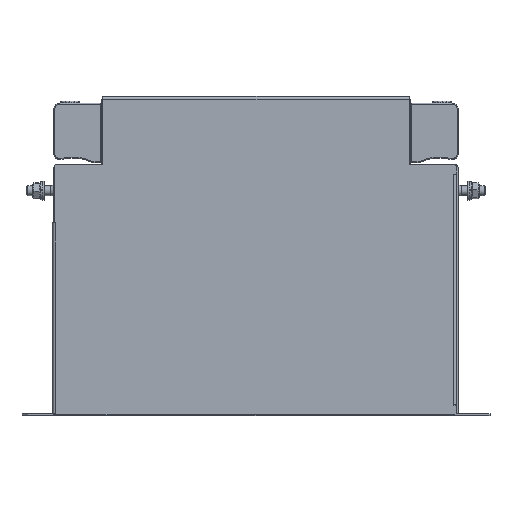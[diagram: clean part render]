
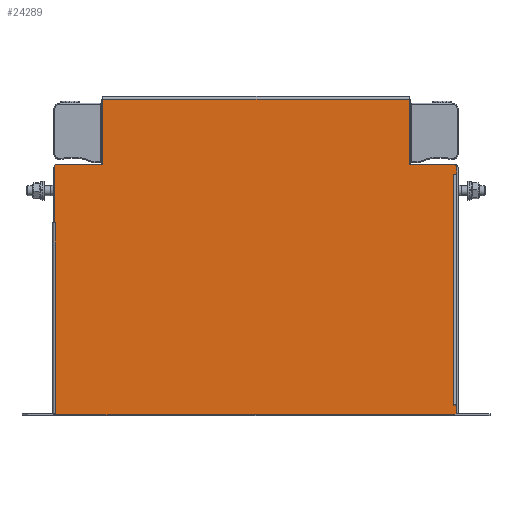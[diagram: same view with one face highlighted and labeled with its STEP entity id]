
A CAD part, top view. The second image highlights one B-rep face of the part: STEP entity #24289.
In plain terms, the highlighted planar face has unit normal (0, 0, 1).
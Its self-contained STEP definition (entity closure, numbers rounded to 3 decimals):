
#2786=FACE_OUTER_BOUND('',#4310,.T.);
#4310=EDGE_LOOP('',(#20236,#20237,#20238,#20239,#20240,#20241,#20242,#20243,
#20244,#20245,#20246,#20247,#20248,#20249,#20250,#20251,#20252,#20253,#20254,
#20255,#20256,#20257,#20258,#20259,#20260,#20261,#20262));
#6638=LINE('',#40257,#8964);
#6639=LINE('',#40259,#8965);
#6640=LINE('',#40261,#8966);
#6641=LINE('',#40263,#8967);
#6642=LINE('',#40265,#8968);
#6643=LINE('',#40267,#8969);
#6644=LINE('',#40269,#8970);
#6645=LINE('',#40271,#8971);
#6646=LINE('',#40273,#8972);
#6647=LINE('',#40275,#8973);
#6648=LINE('',#40277,#8974);
#6649=LINE('',#40279,#8975);
#6650=LINE('',#40281,#8976);
#6651=LINE('',#40283,#8977);
#6652=LINE('',#40285,#8978);
#6653=LINE('',#40287,#8979);
#6654=LINE('',#40289,#8980);
#6655=LINE('',#40291,#8981);
#6656=LINE('',#40293,#8982);
#6657=LINE('',#40295,#8983);
#6658=LINE('',#40297,#8984);
#6659=LINE('',#40299,#8985);
#6660=LINE('',#40301,#8986);
#6661=LINE('',#40303,#8987);
#6662=LINE('',#40305,#8988);
#6663=LINE('',#40307,#8989);
#6664=LINE('',#40308,#8990);
#8964=VECTOR('',#32757,10.);
#8965=VECTOR('',#32758,10.);
#8966=VECTOR('',#32759,10.);
#8967=VECTOR('',#32760,10.);
#8968=VECTOR('',#32761,10.);
#8969=VECTOR('',#32762,10.);
#8970=VECTOR('',#32763,10.);
#8971=VECTOR('',#32764,10.);
#8972=VECTOR('',#32765,10.);
#8973=VECTOR('',#32766,10.);
#8974=VECTOR('',#32767,10.);
#8975=VECTOR('',#32768,10.);
#8976=VECTOR('',#32769,10.);
#8977=VECTOR('',#32770,10.);
#8978=VECTOR('',#32771,10.);
#8979=VECTOR('',#32772,10.);
#8980=VECTOR('',#32773,10.);
#8981=VECTOR('',#32774,10.);
#8982=VECTOR('',#32775,10.);
#8983=VECTOR('',#32776,10.);
#8984=VECTOR('',#32777,10.);
#8985=VECTOR('',#32778,10.);
#8986=VECTOR('',#32779,10.);
#8987=VECTOR('',#32780,10.);
#8988=VECTOR('',#32781,10.);
#8989=VECTOR('',#32782,10.);
#8990=VECTOR('',#32783,10.);
#11003=VERTEX_POINT('',#40255);
#11004=VERTEX_POINT('',#40256);
#11005=VERTEX_POINT('',#40258);
#11006=VERTEX_POINT('',#40260);
#11007=VERTEX_POINT('',#40262);
#11008=VERTEX_POINT('',#40264);
#11009=VERTEX_POINT('',#40266);
#11010=VERTEX_POINT('',#40268);
#11011=VERTEX_POINT('',#40270);
#11012=VERTEX_POINT('',#40272);
#11013=VERTEX_POINT('',#40274);
#11014=VERTEX_POINT('',#40276);
#11015=VERTEX_POINT('',#40278);
#11016=VERTEX_POINT('',#40280);
#11017=VERTEX_POINT('',#40282);
#11018=VERTEX_POINT('',#40284);
#11019=VERTEX_POINT('',#40286);
#11020=VERTEX_POINT('',#40288);
#11021=VERTEX_POINT('',#40290);
#11022=VERTEX_POINT('',#40292);
#11023=VERTEX_POINT('',#40294);
#11024=VERTEX_POINT('',#40296);
#11025=VERTEX_POINT('',#40298);
#11026=VERTEX_POINT('',#40300);
#11027=VERTEX_POINT('',#40302);
#11028=VERTEX_POINT('',#40304);
#11029=VERTEX_POINT('',#40306);
#14121=EDGE_CURVE('',#11003,#11004,#6638,.T.);
#14122=EDGE_CURVE('',#11005,#11003,#6639,.T.);
#14123=EDGE_CURVE('',#11005,#11006,#6640,.T.);
#14124=EDGE_CURVE('',#11006,#11007,#6641,.T.);
#14125=EDGE_CURVE('',#11007,#11008,#6642,.T.);
#14126=EDGE_CURVE('',#11008,#11009,#6643,.T.);
#14127=EDGE_CURVE('',#11009,#11010,#6644,.T.);
#14128=EDGE_CURVE('',#11010,#11011,#6645,.T.);
#14129=EDGE_CURVE('',#11011,#11012,#6646,.T.);
#14130=EDGE_CURVE('',#11013,#11012,#6647,.T.);
#14131=EDGE_CURVE('',#11014,#11013,#6648,.T.);
#14132=EDGE_CURVE('',#11014,#11015,#6649,.T.);
#14133=EDGE_CURVE('',#11015,#11016,#6650,.T.);
#14134=EDGE_CURVE('',#11016,#11017,#6651,.T.);
#14135=EDGE_CURVE('',#11017,#11018,#6652,.T.);
#14136=EDGE_CURVE('',#11018,#11019,#6653,.T.);
#14137=EDGE_CURVE('',#11020,#11019,#6654,.T.);
#14138=EDGE_CURVE('',#11020,#11021,#6655,.T.);
#14139=EDGE_CURVE('',#11021,#11022,#6656,.T.);
#14140=EDGE_CURVE('',#11022,#11023,#6657,.T.);
#14141=EDGE_CURVE('',#11023,#11024,#6658,.T.);
#14142=EDGE_CURVE('',#11024,#11025,#6659,.T.);
#14143=EDGE_CURVE('',#11025,#11026,#6660,.T.);
#14144=EDGE_CURVE('',#11026,#11027,#6661,.T.);
#14145=EDGE_CURVE('',#11027,#11028,#6662,.T.);
#14146=EDGE_CURVE('',#11029,#11028,#6663,.T.);
#14147=EDGE_CURVE('',#11004,#11029,#6664,.T.);
#20236=ORIENTED_EDGE('',*,*,#14121,.F.);
#20237=ORIENTED_EDGE('',*,*,#14122,.F.);
#20238=ORIENTED_EDGE('',*,*,#14123,.T.);
#20239=ORIENTED_EDGE('',*,*,#14124,.T.);
#20240=ORIENTED_EDGE('',*,*,#14125,.T.);
#20241=ORIENTED_EDGE('',*,*,#14126,.T.);
#20242=ORIENTED_EDGE('',*,*,#14127,.T.);
#20243=ORIENTED_EDGE('',*,*,#14128,.T.);
#20244=ORIENTED_EDGE('',*,*,#14129,.T.);
#20245=ORIENTED_EDGE('',*,*,#14130,.F.);
#20246=ORIENTED_EDGE('',*,*,#14131,.F.);
#20247=ORIENTED_EDGE('',*,*,#14132,.T.);
#20248=ORIENTED_EDGE('',*,*,#14133,.T.);
#20249=ORIENTED_EDGE('',*,*,#14134,.T.);
#20250=ORIENTED_EDGE('',*,*,#14135,.T.);
#20251=ORIENTED_EDGE('',*,*,#14136,.T.);
#20252=ORIENTED_EDGE('',*,*,#14137,.F.);
#20253=ORIENTED_EDGE('',*,*,#14138,.T.);
#20254=ORIENTED_EDGE('',*,*,#14139,.T.);
#20255=ORIENTED_EDGE('',*,*,#14140,.T.);
#20256=ORIENTED_EDGE('',*,*,#14141,.T.);
#20257=ORIENTED_EDGE('',*,*,#14142,.T.);
#20258=ORIENTED_EDGE('',*,*,#14143,.T.);
#20259=ORIENTED_EDGE('',*,*,#14144,.T.);
#20260=ORIENTED_EDGE('',*,*,#14145,.T.);
#20261=ORIENTED_EDGE('',*,*,#14146,.F.);
#20262=ORIENTED_EDGE('',*,*,#14147,.F.);
#21567=PLANE('',#26441);
#24289=ADVANCED_FACE('',(#2786),#21567,.T.);
#26441=AXIS2_PLACEMENT_3D('',#40254,#32755,#32756);
#32755=DIRECTION('center_axis',(0.,0.,
1.));
#32756=DIRECTION('ref_axis',(1.,0.,0.));
#32757=DIRECTION('',(-0.707,-0.707,0.));
#32758=DIRECTION('',(0.,-1.,0.));
#32759=DIRECTION('',(-1.,0.,0.));
#32760=DIRECTION('',(0.,1.,0.));
#32761=DIRECTION('',(1.,0.,0.));
#32762=DIRECTION('',(0.,1.,0.));
#32763=DIRECTION('',(-1.,0.,0.));
#32764=DIRECTION('',(0.,1.,0.));
#32765=DIRECTION('',(1.,0.,0.));
#32766=DIRECTION('',(0.,-1.,0.));
#32767=DIRECTION('',(0.707,-0.707,0.));
#32768=DIRECTION('',(-1.,0.,0.));
#32769=DIRECTION('',(0.,1.,0.));
#32770=DIRECTION('',(-1.,0.,0.));
#32771=DIRECTION('',(0.,-1.,0.));
#32772=DIRECTION('',(-1.,0.,0.));
#32773=DIRECTION('',(0.707,0.707,0.));
#32774=DIRECTION('',(0.,-1.,0.));
#32775=DIRECTION('',(1.,0.,0.));
#32776=DIRECTION('',(0.,-1.,0.));
#32777=DIRECTION('',(-1.,0.,0.));
#32778=DIRECTION('',(0.,-1.,0.));
#32779=DIRECTION('',(1.,0.,0.));
#32780=DIRECTION('',(0.,-1.,0.));
#32781=DIRECTION('',(-1.,0.,0.));
#32782=DIRECTION('',(0.,1.,0.));
#32783=DIRECTION('',(-1.,0.,0.));
#40254=CARTESIAN_POINT('Origin',(-0.4,83.75,27.45));
#40255=CARTESIAN_POINT('',(105.,1.5,27.45));
#40256=CARTESIAN_POINT('',(104.,0.5,27.45));
#40257=CARTESIAN_POINT('',(98.962,-4.538,27.45));
#40258=CARTESIAN_POINT('',(105.,5.49,27.45));
#40259=CARTESIAN_POINT('',(105.,0.5,27.45));
#40260=CARTESIAN_POINT('',(103.49,5.49,27.45));
#40261=CARTESIAN_POINT('',(52.3,5.49,27.45));
#40262=CARTESIAN_POINT('',(103.49,5.5,27.45));
#40263=CARTESIAN_POINT('',(103.49,44.62,27.45));
#40264=CARTESIAN_POINT('',(103.5,5.5,27.45));
#40265=CARTESIAN_POINT('',(51.545,5.5,27.45));
#40266=CARTESIAN_POINT('',(103.5,126.3,27.45));
#40267=CARTESIAN_POINT('',(103.5,44.625,27.45));
#40268=CARTESIAN_POINT('',(103.49,126.3,27.45));
#40269=CARTESIAN_POINT('',(52.3,126.3,27.45));
#40270=CARTESIAN_POINT('',(103.49,126.31,27.45));
#40271=CARTESIAN_POINT('',(103.49,105.025,27.45));
#40272=CARTESIAN_POINT('',(105.,126.31,27.45));
#40273=CARTESIAN_POINT('',(51.545,126.31,27.45));
#40274=CARTESIAN_POINT('',(105.,130.3,27.45));
#40275=CARTESIAN_POINT('',(105.,0.5,27.45));
#40276=CARTESIAN_POINT('',(104.,131.3,27.45));
#40277=CARTESIAN_POINT('',(90.037,145.263,27.45));
#40278=CARTESIAN_POINT('',(80.3,131.3,27.45));
#40279=CARTESIAN_POINT('',(52.3,131.3,27.45));
#40280=CARTESIAN_POINT('',(80.3,165.5,27.45));
#40281=CARTESIAN_POINT('',(80.3,107.525,27.45));
#40282=CARTESIAN_POINT('',(-80.3,165.5,27.45));
#40283=CARTESIAN_POINT('',(39.95,165.5,27.45));
#40284=CARTESIAN_POINT('',(-80.3,131.3,27.45));
#40285=CARTESIAN_POINT('',(-80.3,125.375,27.45));
#40286=CARTESIAN_POINT('',(-104.6,131.3,27.45));
#40287=CARTESIAN_POINT('',(-40.35,131.3,27.45));
#40288=CARTESIAN_POINT('',(-105.6,130.3,27.45));
#40289=CARTESIAN_POINT('',(-90.688,145.213,27.45));
#40290=CARTESIAN_POINT('',(-105.6,100.81,27.45));
#40291=CARTESIAN_POINT('',(-105.6,99.902,27.45));
#40292=CARTESIAN_POINT('',(-104.99,100.81,27.45));
#40293=CARTESIAN_POINT('',(-53.1,100.81,27.45));
#40294=CARTESIAN_POINT('',(-104.99,100.8,27.45));
#40295=CARTESIAN_POINT('',(-104.99,92.28,27.45));
#40296=CARTESIAN_POINT('',(-105.,100.8,27.45));
#40297=CARTESIAN_POINT('',(-52.695,100.8,27.45));
#40298=CARTESIAN_POINT('',(-105.,1.,27.45));
#40299=CARTESIAN_POINT('',(-105.,92.275,27.45));
#40300=CARTESIAN_POINT('',(-104.99,1.,27.45));
#40301=CARTESIAN_POINT('',(-53.1,1.,27.45));
#40302=CARTESIAN_POINT('',(-104.99,0.99,27.45));
#40303=CARTESIAN_POINT('',(-104.99,42.375,27.45));
#40304=CARTESIAN_POINT('',(-105.8,0.99,27.45));
#40305=CARTESIAN_POINT('',(-52.695,0.99,27.45));
#40306=CARTESIAN_POINT('',(-105.8,0.5,27.45));
#40307=CARTESIAN_POINT('',(-105.8,167.,27.45));
#40308=CARTESIAN_POINT('',(-105.8,0.5,27.45));
